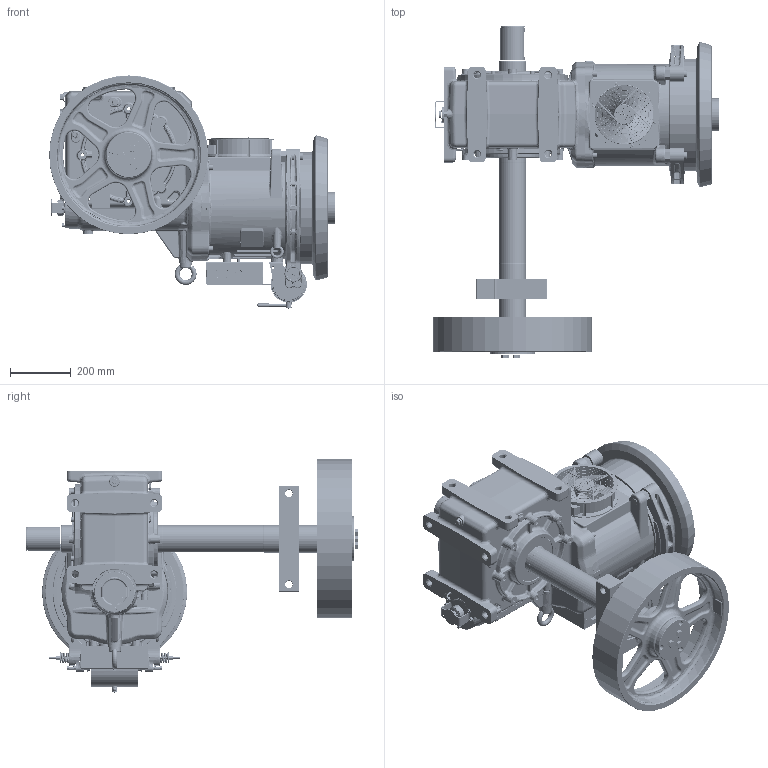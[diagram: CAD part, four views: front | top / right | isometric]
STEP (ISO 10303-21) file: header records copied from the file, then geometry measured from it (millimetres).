
FILE_DESCRIPTION((''),'2;1');
FILE_NAME('00373425_SW0001','2022-04-22T',('AttiaM'),('Sicor spa'),'CREO PARAMETRIC BY PTC INC, 2017170','CREO PARAMETRIC BY PTC INC, 2017170','');
FILE_SCHEMA(('CONFIG_CONTROL_DESIGN'));
Length unit declared in the file: millimetre
Products named in the file (1): 00373425_SW0001
Bounding box: 942 x 1094.7 x 768.97 mm (x, y, z)
Surface area: 5351618.4 mm2 (no closed solid volume)
Topology: 0 solids, 576 shells, 5489 faces, 20378 edges, 14996 vertices
Faces by surface type: plane 1441, bspline 1407, cylinder 1380, torus 626, cone 573, sphere 60, revolution 2
Entity records: 345414 total; most frequent: CARTESIAN_POINT 188834, ORIENTED_EDGE 30299, DIRECTION 29794, EDGE_CURVE 20360, VERTEX_POINT 14996, AXIS2_PLACEMENT_3D 11060, VECTOR 7672, LINE 7672
